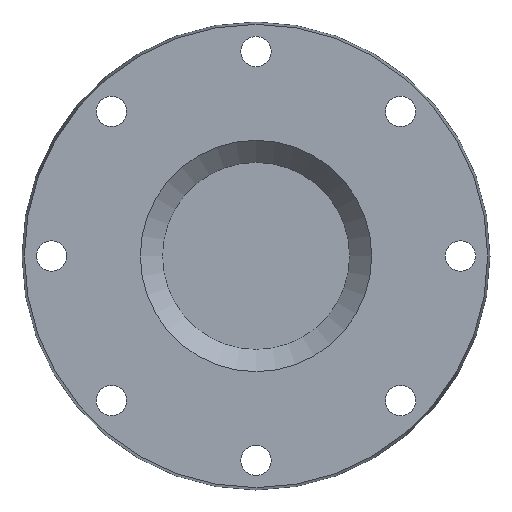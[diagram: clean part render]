
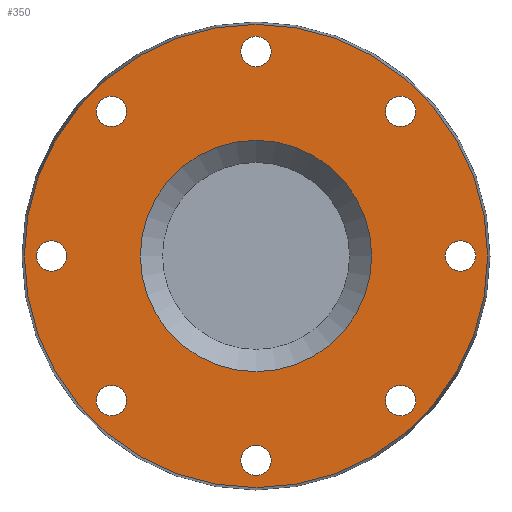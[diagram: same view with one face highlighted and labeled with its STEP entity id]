
A CAD part, left-side view. The second image highlights one B-rep face of the part: STEP entity #350.
In plain terms, the highlighted planar face has unit normal (-1, 0, 0).
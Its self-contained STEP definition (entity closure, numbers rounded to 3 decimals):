
#24=PLANE('',#407);
#55=FACE_BOUND('',#142,.T.);
#56=FACE_BOUND('',#143,.T.);
#57=FACE_BOUND('',#144,.T.);
#58=FACE_BOUND('',#145,.T.);
#59=FACE_BOUND('',#146,.T.);
#60=FACE_BOUND('',#147,.T.);
#61=FACE_BOUND('',#148,.T.);
#62=FACE_BOUND('',#149,.T.);
#63=FACE_BOUND('',#150,.T.);
#87=FACE_OUTER_BOUND('',#141,.T.);
#141=EDGE_LOOP('',(#301));
#142=EDGE_LOOP('',(#302));
#143=EDGE_LOOP('',(#303));
#144=EDGE_LOOP('',(#304));
#145=EDGE_LOOP('',(#305));
#146=EDGE_LOOP('',(#306));
#147=EDGE_LOOP('',(#307));
#148=EDGE_LOOP('',(#308));
#149=EDGE_LOOP('',(#309));
#150=EDGE_LOOP('',(#310));
#175=CIRCLE('',#389,11.);
#176=CIRCLE('',#391,11.);
#177=CIRCLE('',#393,11.);
#178=CIRCLE('',#395,11.);
#179=CIRCLE('',#397,11.);
#180=CIRCLE('',#399,11.);
#181=CIRCLE('',#401,11.);
#182=CIRCLE('',#403,11.);
#183=CIRCLE('',#406,168.3);
#184=CIRCLE('',#408,84.);
#207=VERTEX_POINT('',#584);
#208=VERTEX_POINT('',#587);
#209=VERTEX_POINT('',#590);
#210=VERTEX_POINT('',#593);
#211=VERTEX_POINT('',#596);
#212=VERTEX_POINT('',#599);
#213=VERTEX_POINT('',#602);
#214=VERTEX_POINT('',#605);
#215=VERTEX_POINT('',#609);
#216=VERTEX_POINT('',#612);
#239=EDGE_CURVE('',#207,#207,#175,.T.);
#240=EDGE_CURVE('',#208,#208,#176,.T.);
#241=EDGE_CURVE('',#209,#209,#177,.T.);
#242=EDGE_CURVE('',#210,#210,#178,.T.);
#243=EDGE_CURVE('',#211,#211,#179,.T.);
#244=EDGE_CURVE('',#212,#212,#180,.T.);
#245=EDGE_CURVE('',#213,#213,#181,.T.);
#246=EDGE_CURVE('',#214,#214,#182,.T.);
#247=EDGE_CURVE('',#215,#215,#183,.T.);
#248=EDGE_CURVE('',#216,#216,#184,.T.);
#301=ORIENTED_EDGE('',*,*,#247,.T.);
#302=ORIENTED_EDGE('',*,*,#239,.T.);
#303=ORIENTED_EDGE('',*,*,#240,.T.);
#304=ORIENTED_EDGE('',*,*,#241,.T.);
#305=ORIENTED_EDGE('',*,*,#242,.T.);
#306=ORIENTED_EDGE('',*,*,#243,.T.);
#307=ORIENTED_EDGE('',*,*,#244,.T.);
#308=ORIENTED_EDGE('',*,*,#245,.T.);
#309=ORIENTED_EDGE('',*,*,#246,.T.);
#310=ORIENTED_EDGE('',*,*,#248,.F.);
#350=ADVANCED_FACE('',(#87,#55,#56,#57,#58,#59,#60,#61,#62,#63),#24,.T.);
#389=AXIS2_PLACEMENT_3D('',#585,#482,#483);
#391=AXIS2_PLACEMENT_3D('',#588,#486,#487);
#393=AXIS2_PLACEMENT_3D('',#591,#490,#491);
#395=AXIS2_PLACEMENT_3D('',#594,#494,#495);
#397=AXIS2_PLACEMENT_3D('',#597,#498,#499);
#399=AXIS2_PLACEMENT_3D('',#600,#502,#503);
#401=AXIS2_PLACEMENT_3D('',#603,#506,#507);
#403=AXIS2_PLACEMENT_3D('',#606,#510,#511);
#406=AXIS2_PLACEMENT_3D('',#610,#516,#517);
#407=AXIS2_PLACEMENT_3D('',#611,#518,#519);
#408=AXIS2_PLACEMENT_3D('',#613,#520,#521);
#482=DIRECTION('center_axis',(1.,0.,0.));
#483=DIRECTION('ref_axis',(0.,-0.707,0.707));
#486=DIRECTION('center_axis',(1.,0.,0.));
#487=DIRECTION('ref_axis',(0.,-1.,0.));
#490=DIRECTION('center_axis',(1.,0.,0.));
#491=DIRECTION('ref_axis',(0.,-0.707,-0.707));
#494=DIRECTION('center_axis',(1.,0.,0.));
#495=DIRECTION('ref_axis',(0.,0.,-1.));
#498=DIRECTION('center_axis',(1.,0.,0.));
#499=DIRECTION('ref_axis',(0.,0.707,-0.707));
#502=DIRECTION('center_axis',(1.,0.,0.));
#503=DIRECTION('ref_axis',(0.,1.,0.));
#506=DIRECTION('center_axis',(1.,0.,0.));
#507=DIRECTION('ref_axis',(0.,0.707,0.707));
#510=DIRECTION('center_axis',(1.,0.,0.));
#511=DIRECTION('ref_axis',(0.,0.,1.));
#516=DIRECTION('center_axis',(-1.,0.,0.));
#517=DIRECTION('ref_axis',(0.,0.,1.));
#518=DIRECTION('center_axis',(-1.,0.,0.));
#519=DIRECTION('ref_axis',(0.,0.,1.));
#520=DIRECTION('center_axis',(-1.,0.,0.));
#521=DIRECTION('ref_axis',(0.,0.,1.));
#584=CARTESIAN_POINT('',(-16.,112.784,97.227));
#585=CARTESIAN_POINT('Origin',(-16.,105.005,105.005));
#587=CARTESIAN_POINT('',(-16.,11.,148.5));
#588=CARTESIAN_POINT('Origin',(-16.,0.,148.5));
#590=CARTESIAN_POINT('',(-16.,-97.227,112.784));
#591=CARTESIAN_POINT('Origin',(-16.,-105.005,105.005));
#593=CARTESIAN_POINT('',(-16.,-148.5,11.));
#594=CARTESIAN_POINT('Origin',(-16.,-148.5,0.));
#596=CARTESIAN_POINT('',(-16.,-112.784,-97.227));
#597=CARTESIAN_POINT('Origin',(-16.,-105.005,-105.005));
#599=CARTESIAN_POINT('',(-16.,-11.,-148.5));
#600=CARTESIAN_POINT('Origin',(-16.,0.,-148.5));
#602=CARTESIAN_POINT('',(-16.,97.227,-112.784));
#603=CARTESIAN_POINT('Origin',(-16.,105.005,-105.005));
#605=CARTESIAN_POINT('',(-16.,148.5,-11.));
#606=CARTESIAN_POINT('Origin',(-16.,148.5,0.));
#609=CARTESIAN_POINT('',(-16.,-168.3,0.));
#610=CARTESIAN_POINT('Origin',(-16.,0.,0.));
#611=CARTESIAN_POINT('Origin',(-16.,-84.,0.));
#612=CARTESIAN_POINT('',(-16.,-84.,0.));
#613=CARTESIAN_POINT('Origin',(-16.,0.,0.));
